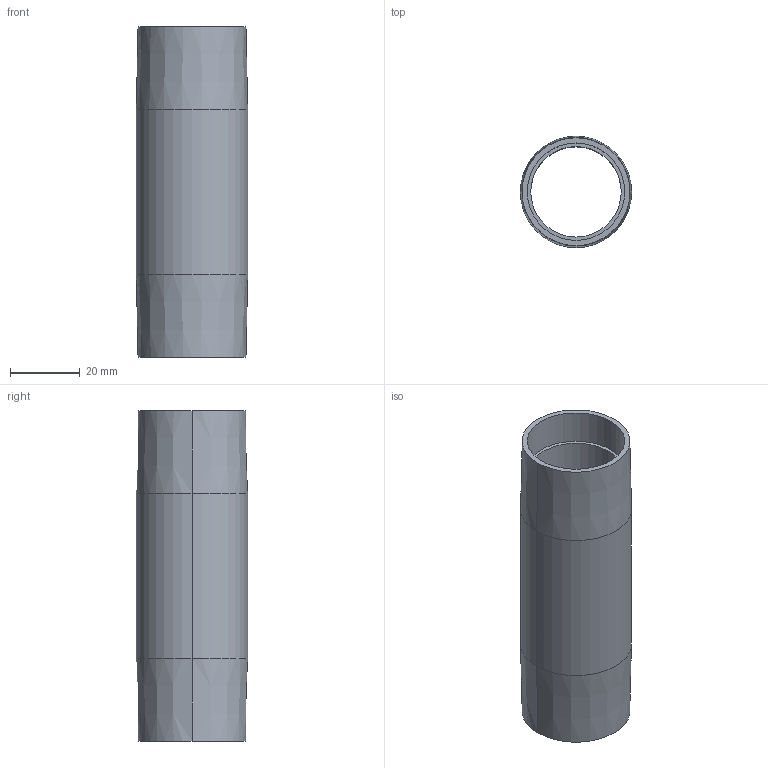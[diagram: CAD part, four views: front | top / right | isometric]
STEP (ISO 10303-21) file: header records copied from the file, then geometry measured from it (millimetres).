
FILE_DESCRIPTION (( 'STEP AP214' ), '1' );
FILE_NAME ('084.030.189.STEP', '2021-02-05T15:49:43', ( '' ), ( '' ), 'SwSTEP 2.0', 'SolidWorks 2018', '' );
FILE_SCHEMA (( 'AUTOMOTIVE_DESIGN' ));
Length unit declared in the file: millimetre
Products named in the file (1): 084.030.189
Bounding box: 32 x 32 x 95 mm (x, y, z)
Volume: 23087.4 mm3; surface area: 17809.9 mm2
Topology: 1 solids, 1 shells, 16 faces, 32 edges, 20 vertices
Faces by surface type: cylinder 8, cone 4, plane 4
Entity records: 462 total; most frequent: DIRECTION 86, CARTESIAN_POINT 69, ORIENTED_EDGE 64, AXIS2_PLACEMENT_3D 37, EDGE_CURVE 32, VERTEX_POINT 20, CIRCLE 20, EDGE_LOOP 20
